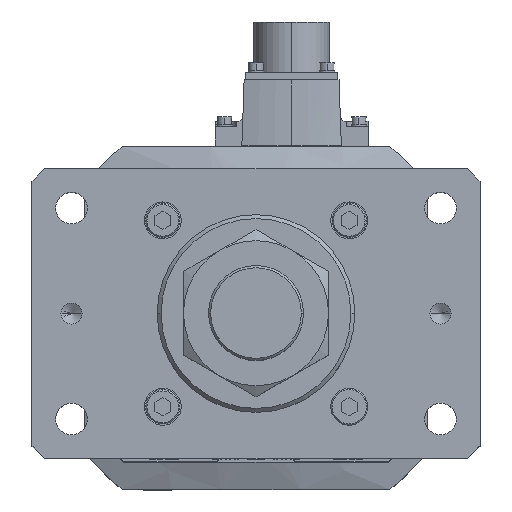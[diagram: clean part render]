
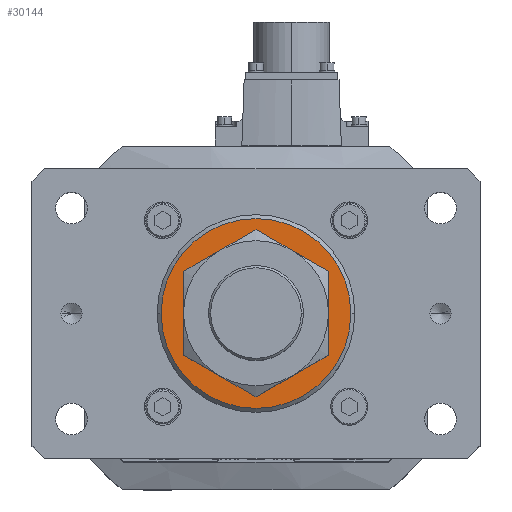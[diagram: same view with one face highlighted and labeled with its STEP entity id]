
A CAD part, top view. The second image highlights one B-rep face of the part: STEP entity #30144.
In plain terms, the highlighted planar face has unit normal (0, 0, 1).
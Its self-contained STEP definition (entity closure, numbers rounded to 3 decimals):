
#402 = DIRECTION ( 'NONE',  ( 0., 0., 1. ) ) ;
#1105 = CARTESIAN_POINT ( 'NONE',  ( 0., 0., 746. ) ) ;
#1559 = CARTESIAN_POINT ( 'NONE',  ( 0., 0., 746. ) ) ;
#6778 = CIRCLE ( 'NONE', #23770, 36. ) ;
#7083 = VERTEX_POINT ( 'NONE', #14290 ) ;
#7542 = DIRECTION ( 'NONE',  ( 0., 0., 1. ) ) ;
#9258 = DIRECTION ( 'NONE',  ( 1., 0., 0. ) ) ;
#10175 = CIRCLE ( 'NONE', #29058, 23. ) ;
#11095 = VERTEX_POINT ( 'NONE', #12029 ) ;
#11859 = CARTESIAN_POINT ( 'NONE',  ( 36., 0., 746. ) ) ;
#12029 = CARTESIAN_POINT ( 'NONE',  ( -36., 0., 746. ) ) ;
#12119 = DIRECTION ( 'NONE',  ( 0., 0., -1. ) ) ;
#13400 = EDGE_CURVE ( 'NONE', #11095, #27560, #28320, .T. ) ;
#14017 = VERTEX_POINT ( 'NONE', #33427 ) ;
#14213 = EDGE_CURVE ( 'NONE', #7083, #14017, #17119, .T. ) ;
#14290 = CARTESIAN_POINT ( 'NONE',  ( 23., 0., 746. ) ) ;
#14411 = AXIS2_PLACEMENT_3D ( 'NONE', #14554, #31891, #9258 ) ;
#14485 = DIRECTION ( 'NONE',  ( 1., 0., 0. ) ) ;
#14554 = CARTESIAN_POINT ( 'NONE',  ( 0., 0., 746. ) ) ;
#15199 = EDGE_CURVE ( 'NONE', #27560, #11095, #6778, .T. ) ;
#17119 = CIRCLE ( 'NONE', #14411, 23. ) ;
#17304 = ORIENTED_EDGE ( 'NONE', *, *, #13400, .T. ) ;
#17475 = DIRECTION ( 'NONE',  ( 0., 0., 1. ) ) ;
#17753 = CARTESIAN_POINT ( 'NONE',  ( 0., 0., 746. ) ) ;
#18552 = ORIENTED_EDGE ( 'NONE', *, *, #15199, .T. ) ;
#18761 = ORIENTED_EDGE ( 'NONE', *, *, #14213, .T. ) ;
#19396 = DIRECTION ( 'NONE',  ( 1., 0., 0. ) ) ;
#19686 = EDGE_LOOP ( 'NONE', ( #18761, #24579 ) ) ;
#21213 = AXIS2_PLACEMENT_3D ( 'NONE', #1559, #7542, #36188 ) ;
#23770 = AXIS2_PLACEMENT_3D ( 'NONE', #31699, #17475, #14485 ) ;
#24579 = ORIENTED_EDGE ( 'NONE', *, *, #27633, .T. ) ;
#24725 = EDGE_LOOP ( 'NONE', ( #17304, #18552 ) ) ;
#27406 = FACE_BOUND ( 'NONE', #19686, .T. ) ;
#27560 = VERTEX_POINT ( 'NONE', #11859 ) ;
#27633 = EDGE_CURVE ( 'NONE', #14017, #7083, #10175, .T. ) ;
#28320 = CIRCLE ( 'NONE', #29410, 36. ) ;
#29058 = AXIS2_PLACEMENT_3D ( 'NONE', #17753, #12119, #35844 ) ;
#29410 = AXIS2_PLACEMENT_3D ( 'NONE', #1105, #402, #19396 ) ;
#30144 = ADVANCED_FACE ( 'NONE', ( #27406, #35926 ), #30163, .T. ) ;
#30163 = PLANE ( 'NONE',  #21213 ) ;
#31699 = CARTESIAN_POINT ( 'NONE',  ( 0., 0., 746. ) ) ;
#31891 = DIRECTION ( 'NONE',  ( 0., 0., -1. ) ) ;
#33427 = CARTESIAN_POINT ( 'NONE',  ( -23., 0., 746. ) ) ;
#35844 = DIRECTION ( 'NONE',  ( 1., 0., 0. ) ) ;
#35926 = FACE_OUTER_BOUND ( 'NONE', #24725, .T. ) ;
#36188 = DIRECTION ( 'NONE',  ( 1., 0., 0. ) ) ;
